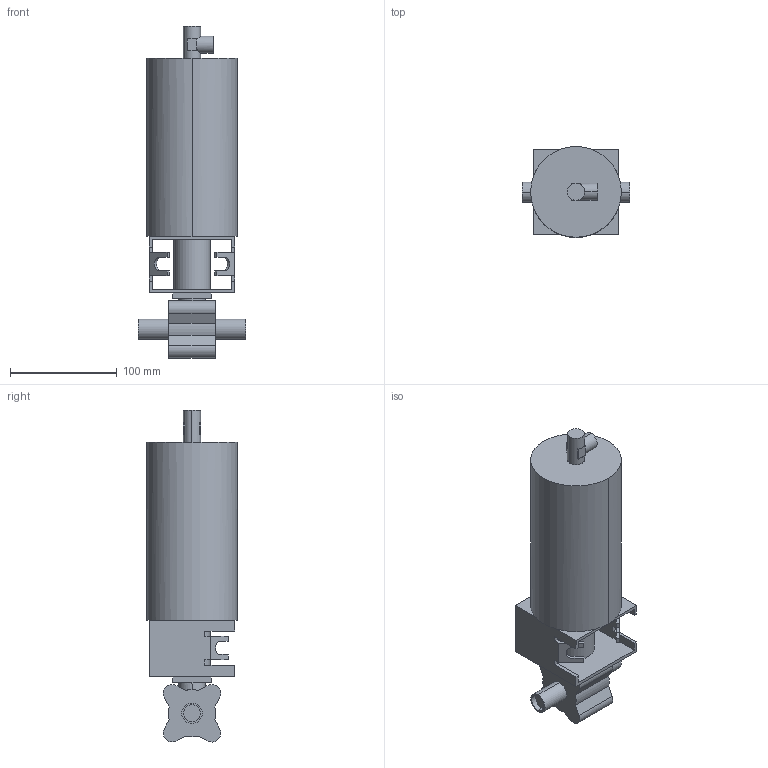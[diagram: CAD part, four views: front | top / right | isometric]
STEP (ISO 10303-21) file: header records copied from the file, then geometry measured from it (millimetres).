
FILE_DESCRIPTION(('Creo Elements/Direct Modeling STEP Export'),'2;1');
FILE_NAME('BLV1-0.75T-NC-12S.stp','2019-05-10T 7:55:07',(''),(''),'Creo Elements/Direct Modeling STEP processor for AP214 (Solid Model)','Creo Elements/Direct Modeling 19.0F 14-Feb-2017 (C) Parametric Technology GmbH','');
FILE_SCHEMA(('AUTOMOTIVE_DESIGN { 1 0 10303 214 1 1 1 1 }'));
Length unit declared in the file: millimetre
Products named in the file (2): BLV1-0.75T-NC-12S
Assembly tree (1 placements, depth 2):
  BLV1-0.75T-NC-12S
    BLV1-0.75T-NC-12S
Bounding box: 101 x 85 x 310.93 mm (x, y, z)
Volume: 1185271.1 mm3; surface area: 109656 mm2
Topology: 1 solids, 1 shells, 109 faces, 287 edges, 186 vertices
Faces by surface type: plane 80, cylinder 29
Entity records: 3117 total; most frequent: ORIENTED_EDGE 574, CARTESIAN_POINT 563, DIRECTION 463, EDGE_CURVE 287, VECTOR 187, LINE 187, VERTEX_POINT 186, AXIS2_PLACEMENT_3D 138
